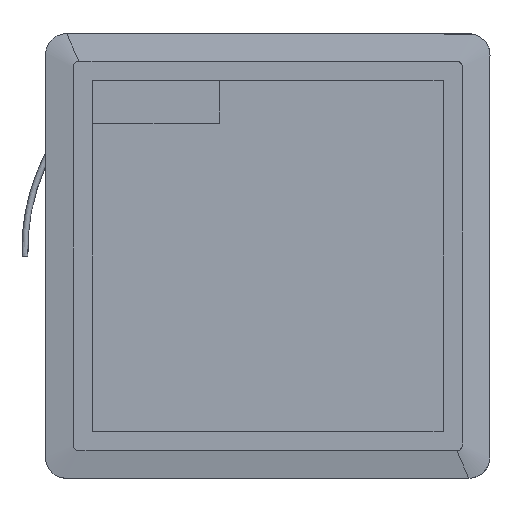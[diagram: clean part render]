
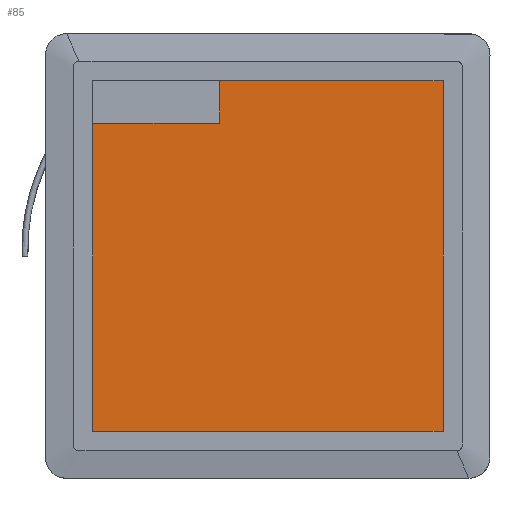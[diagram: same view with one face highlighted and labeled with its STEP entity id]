
A CAD part, front view. The second image highlights one B-rep face of the part: STEP entity #85.
In plain terms, the highlighted planar face has unit normal (0, -1, 0).
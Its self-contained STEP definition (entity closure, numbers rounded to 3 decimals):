
#85=ADVANCED_FACE('',(#528),#7090,.T.);
#528=FACE_OUTER_BOUND('',#974,.T.);
#974=EDGE_LOOP('',(#1486,#1487,#1488,#1489,#1490,#1491));
#1486=ORIENTED_EDGE('',*,*,#3874,.F.);
#1487=ORIENTED_EDGE('',*,*,#3877,.F.);
#1488=ORIENTED_EDGE('',*,*,#3870,.T.);
#1489=ORIENTED_EDGE('',*,*,#3879,.F.);
#1490=ORIENTED_EDGE('',*,*,#3873,.T.);
#1491=ORIENTED_EDGE('',*,*,#3878,.F.);
#3870=EDGE_CURVE('',#6281,#6282,#5676,.T.);
#3873=EDGE_CURVE('',#6285,#6286,#5679,.T.);
#3874=EDGE_CURVE('',#6284,#6287,#5680,.T.);
#3877=EDGE_CURVE('',#6281,#6284,#5683,.T.);
#3878=EDGE_CURVE('',#6287,#6286,#5684,.T.);
#3879=EDGE_CURVE('',#6285,#6282,#5685,.T.);
#5676=B_SPLINE_CURVE_WITH_KNOTS('',1,(#16130,#16131),.UNSPECIFIED.,.F.,.F.,
(2,2),(0.,82.8),.UNSPECIFIED.);
#5679=B_SPLINE_CURVE_WITH_KNOTS('',1,(#16136,#16137),.UNSPECIFIED.,.F.,.F.,
(2,2),(-82.8,-30.),.UNSPECIFIED.);
#5680=B_SPLINE_CURVE_WITH_KNOTS('',1,(#16138,#16139),.UNSPECIFIED.,.F.,.F.,
(2,2),(0.,30.),.UNSPECIFIED.);
#5683=B_SPLINE_CURVE_WITH_KNOTS('',1,(#16144,#16145,#16146,#16147,#16148,
#16149,#16150,#16151,#16152,#16153,#16154,#16155,#16156,#16157,#16158,#16159,
#16160,#16161),.UNSPECIFIED.,.F.,.F.,(2,1,1,1,1,1,1,1,1,1,1,1,1,1,1,1,1,
2),(0.,0.482,3.182,9.532,12.232,
18.582,21.283,27.633,30.333,36.683,
39.383,45.733,48.434,54.784,57.484,
63.834,66.534,72.8),.UNSPECIFIED.);
#5684=B_SPLINE_CURVE_WITH_KNOTS('',1,(#16162,#16163,#16164,#16165),
 .UNSPECIFIED.,.F.,.F.,(2,1,1,2),(0.,3.502,6.203,10.),
 .UNSPECIFIED.);
#5685=B_SPLINE_CURVE_WITH_KNOTS('',1,(#16166,#16167,#16168,#16169,#16170,
#16171,#16172,#16173,#16174,#16175,#16176,#16177,#16178,#16179,#16180,#16181,
#16182,#16183,#16184,#16185),.UNSPECIFIED.,.F.,.F.,(2,1,1,1,1,1,1,1,1,1,
1,1,1,1,1,1,1,1,1,2),(-82.8,-75.585,-72.884,
-66.534,-63.834,-57.484,-54.784,-48.434,
-45.733,-39.383,-36.683,-30.333,
-27.633,-21.283,-18.582,-12.232,
-9.532,-3.182,-0.482,0.),
 .UNSPECIFIED.);
#6281=VERTEX_POINT('',#15495);
#6282=VERTEX_POINT('',#15496);
#6284=VERTEX_POINT('',#15498);
#6285=VERTEX_POINT('',#15499);
#6286=VERTEX_POINT('',#15500);
#6287=VERTEX_POINT('',#15501);
#7090=PLANE('',#7619);
#7619=AXIS2_PLACEMENT_3D('',#14996,#7811,$);
#7811=DIRECTION('',(0.,-1.,0.));
#14996=CARTESIAN_POINT('',(-41.4,-20.496,-41.4));
#15495=CARTESIAN_POINT('',(-41.4,-20.496,-41.4));
#15496=CARTESIAN_POINT('',(41.4,-20.496,-41.4));
#15498=CARTESIAN_POINT('',(-41.4,-20.496,31.4));
#15499=CARTESIAN_POINT('',(41.4,-20.496,41.4));
#15500=CARTESIAN_POINT('',(-11.4,-20.496,41.4));
#15501=CARTESIAN_POINT('',(-11.4,-20.496,31.4));
#16130=CARTESIAN_POINT('',(-41.4,-20.496,-41.4));
#16131=CARTESIAN_POINT('',(41.4,-20.496,-41.4));
#16136=CARTESIAN_POINT('',(41.4,-20.496,41.4));
#16137=CARTESIAN_POINT('',(-11.4,-20.496,41.4));
#16138=CARTESIAN_POINT('',(-41.4,-20.496,31.4));
#16139=CARTESIAN_POINT('',(-11.4,-20.496,31.4));
#16144=CARTESIAN_POINT('',(-41.4,-20.496,-41.4));
#16145=CARTESIAN_POINT('',(-41.4,-20.496,-40.918));
#16146=CARTESIAN_POINT('',(-41.4,-20.496,-38.218));
#16147=CARTESIAN_POINT('',(-41.4,-20.496,-31.868));
#16148=CARTESIAN_POINT('',(-41.4,-20.496,-29.168));
#16149=CARTESIAN_POINT('',(-41.4,-20.496,-22.818));
#16150=CARTESIAN_POINT('',(-41.4,-20.496,-20.117));
#16151=CARTESIAN_POINT('',(-41.4,-20.496,-13.767));
#16152=CARTESIAN_POINT('',(-41.4,-20.496,-11.067));
#16153=CARTESIAN_POINT('',(-41.4,-20.496,-4.717));
#16154=CARTESIAN_POINT('',(-41.4,-20.496,-2.017));
#16155=CARTESIAN_POINT('',(-41.4,-20.496,4.333));
#16156=CARTESIAN_POINT('',(-41.4,-20.496,7.034));
#16157=CARTESIAN_POINT('',(-41.4,-20.496,13.384));
#16158=CARTESIAN_POINT('',(-41.4,-20.496,16.084));
#16159=CARTESIAN_POINT('',(-41.4,-20.496,22.434));
#16160=CARTESIAN_POINT('',(-41.4,-20.496,25.134));
#16161=CARTESIAN_POINT('',(-41.4,-20.496,31.4));
#16162=CARTESIAN_POINT('',(-11.4,-20.496,31.4));
#16163=CARTESIAN_POINT('',(-11.4,-20.496,34.902));
#16164=CARTESIAN_POINT('',(-11.4,-20.496,37.603));
#16165=CARTESIAN_POINT('',(-11.4,-20.496,41.4));
#16166=CARTESIAN_POINT('',(41.4,-20.496,41.4));
#16167=CARTESIAN_POINT('',(41.4,-20.496,34.185));
#16168=CARTESIAN_POINT('',(41.4,-20.496,31.484));
#16169=CARTESIAN_POINT('',(41.4,-20.496,25.134));
#16170=CARTESIAN_POINT('',(41.4,-20.496,22.434));
#16171=CARTESIAN_POINT('',(41.4,-20.496,16.084));
#16172=CARTESIAN_POINT('',(41.4,-20.496,13.384));
#16173=CARTESIAN_POINT('',(41.4,-20.496,7.034));
#16174=CARTESIAN_POINT('',(41.4,-20.496,4.333));
#16175=CARTESIAN_POINT('',(41.4,-20.496,-2.017));
#16176=CARTESIAN_POINT('',(41.4,-20.496,-4.717));
#16177=CARTESIAN_POINT('',(41.4,-20.496,-11.067));
#16178=CARTESIAN_POINT('',(41.4,-20.496,-13.767));
#16179=CARTESIAN_POINT('',(41.4,-20.496,-20.117));
#16180=CARTESIAN_POINT('',(41.4,-20.496,-22.818));
#16181=CARTESIAN_POINT('',(41.4,-20.496,-29.168));
#16182=CARTESIAN_POINT('',(41.4,-20.496,-31.868));
#16183=CARTESIAN_POINT('',(41.4,-20.496,-38.218));
#16184=CARTESIAN_POINT('',(41.4,-20.496,-40.918));
#16185=CARTESIAN_POINT('',(41.4,-20.496,-41.4));
